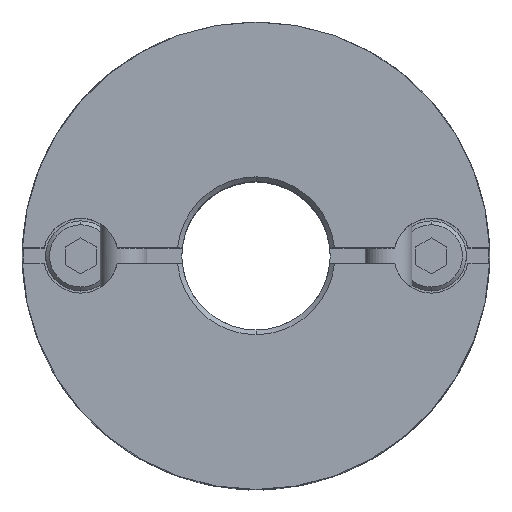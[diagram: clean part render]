
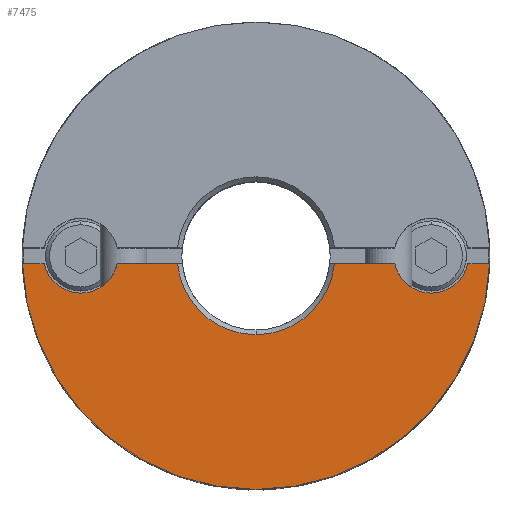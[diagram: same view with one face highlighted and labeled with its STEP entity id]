
A CAD part, top view. The second image highlights one B-rep face of the part: STEP entity #7475.
In plain terms, the highlighted planar face has unit normal (0, 0, 1).
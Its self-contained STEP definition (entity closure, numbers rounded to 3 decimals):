
#622=CARTESIAN_POINT('',(0.,-15.0,11.8));
#623=VERTEX_POINT('',#622);
#630=CARTESIAN_POINT('',(-14.992,-0.5,11.8));
#631=VERTEX_POINT('',#630);
#632=CARTESIAN_POINT('',(0.0,0.0,11.8));
#633=DIRECTION('',(0.0,0.0,-1.0));
#634=DIRECTION('',(0.0,1.0,0.0));
#635=AXIS2_PLACEMENT_3D('',#632,#633,#634);
#636=CIRCLE('',#635,15.0);
#637=EDGE_CURVE('',#623,#631,#636,.T.);
#1032=CARTESIAN_POINT('',(0.,-5.063,11.8));
#1033=VERTEX_POINT('',#1032);
#1041=CARTESIAN_POINT('',(-5.038,-0.5,11.8));
#1042=VERTEX_POINT('',#1041);
#1056=CARTESIAN_POINT('',(0.0,0.0,11.8));
#1057=DIRECTION('',(0.0,0.0,1.0));
#1058=DIRECTION('',(0.0,-1.0,0.0));
#1059=AXIS2_PLACEMENT_3D('',#1056,#1057,#1058);
#1060=CIRCLE('',#1059,5.063);
#1061=EDGE_CURVE('',#1042,#1033,#1060,.T.);
#1353=CARTESIAN_POINT('',(-11.25,-2.4,11.8));
#1354=VERTEX_POINT('',#1353);
#1370=CARTESIAN_POINT('',(-13.597,-0.5,11.8));
#1371=VERTEX_POINT('',#1370);
#1378=CARTESIAN_POINT('',(-11.25,0.,11.8));
#1379=DIRECTION('',(0.0,0.0,-1.0));
#1380=DIRECTION('',(0.0,1.0,0.0));
#1381=AXIS2_PLACEMENT_3D('',#1378,#1379,#1380);
#1382=CIRCLE('',#1381,2.4);
#1383=EDGE_CURVE('',#1354,#1371,#1382,.T.);
#1585=CARTESIAN_POINT('',(11.25,-2.4,11.8));
#1586=VERTEX_POINT('',#1585);
#1652=CARTESIAN_POINT('',(8.903,-0.5,11.8));
#1653=VERTEX_POINT('',#1652);
#1660=CARTESIAN_POINT('',(11.25,0.,11.8));
#1661=DIRECTION('',(0.0,0.0,-1.0));
#1662=DIRECTION('',(0.0,1.0,0.0));
#1663=AXIS2_PLACEMENT_3D('',#1660,#1661,#1662);
#1664=CIRCLE('',#1663,2.4);
#1665=EDGE_CURVE('',#1586,#1653,#1664,.T.);
#5973=CARTESIAN_POINT('',(13.597,-0.5,11.8));
#5974=VERTEX_POINT('',#5973);
#5975=CARTESIAN_POINT('',(11.25,0.,11.8));
#5976=DIRECTION('',(0.0,0.0,-1.0));
#5977=DIRECTION('',(0.0,1.0,0.0));
#5978=AXIS2_PLACEMENT_3D('',#5975,#5976,#5977);
#5979=CIRCLE('',#5978,2.4);
#5980=EDGE_CURVE('',#5974,#1586,#5979,.T.);
#6380=CARTESIAN_POINT('',(-8.903,-0.5,11.8));
#6381=VERTEX_POINT('',#6380);
#6382=CARTESIAN_POINT('',(-11.25,0.,11.8));
#6383=DIRECTION('',(0.0,0.0,-1.0));
#6384=DIRECTION('',(0.0,1.0,0.0));
#6385=AXIS2_PLACEMENT_3D('',#6382,#6383,#6384);
#6386=CIRCLE('',#6385,2.4);
#6387=EDGE_CURVE('',#6381,#1354,#6386,.T.);
#6510=CARTESIAN_POINT('',(-5.038,-0.5,11.8));
#6511=DIRECTION('',(-1.0,0.0,0.0));
#6512=VECTOR('',#6511,3.865);
#6513=LINE('',#6510,#6512);
#6514=EDGE_CURVE('',#1042,#6381,#6513,.T.);
#6627=CARTESIAN_POINT('',(5.038,-0.5,11.8));
#6628=VERTEX_POINT('',#6627);
#6642=CARTESIAN_POINT('',(8.903,-0.5,11.8));
#6643=DIRECTION('',(-1.0,0.0,0.0));
#6644=VECTOR('',#6643,3.865);
#6645=LINE('',#6642,#6644);
#6646=EDGE_CURVE('',#1653,#6628,#6645,.T.);
#7222=CARTESIAN_POINT('',(14.992,-0.5,11.8));
#7223=VERTEX_POINT('',#7222);
#7224=CARTESIAN_POINT('',(14.992,-0.5,11.8));
#7225=DIRECTION('',(-1.0,0.0,0.0));
#7226=VECTOR('',#7225,1.394);
#7227=LINE('',#7224,#7226);
#7228=EDGE_CURVE('',#7223,#5974,#7227,.T.);
#7342=CARTESIAN_POINT('',(-13.597,-0.5,11.8));
#7343=DIRECTION('',(-1.0,0.0,0.0));
#7344=VECTOR('',#7343,1.394);
#7345=LINE('',#7342,#7344);
#7346=EDGE_CURVE('',#1371,#631,#7345,.T.);
#7444=CARTESIAN_POINT('',(0.,1.364,11.8));
#7445=DIRECTION('',(0.0,0.0,1.0));
#7446=DIRECTION('',(0.0,1.0,0.0));
#7447=AXIS2_PLACEMENT_3D('',#7444,#7445,#7446);
#7448=PLANE('',#7447);
#7449=ORIENTED_EDGE('',*,*,#5980,.T.);
#7450=ORIENTED_EDGE('',*,*,#1665,.T.);
#7451=ORIENTED_EDGE('',*,*,#6646,.T.);
#7452=CARTESIAN_POINT('',(0.0,0.0,11.8));
#7453=DIRECTION('',(0.0,0.0,1.0));
#7454=DIRECTION('',(0.0,-1.0,0.0));
#7455=AXIS2_PLACEMENT_3D('',#7452,#7453,#7454);
#7456=CIRCLE('',#7455,5.063);
#7457=EDGE_CURVE('',#1033,#6628,#7456,.T.);
#7458=ORIENTED_EDGE('',*,*,#7457,.F.);
#7459=ORIENTED_EDGE('',*,*,#1061,.F.);
#7460=ORIENTED_EDGE('',*,*,#6514,.T.);
#7461=ORIENTED_EDGE('',*,*,#6387,.T.);
#7462=ORIENTED_EDGE('',*,*,#1383,.T.);
#7463=ORIENTED_EDGE('',*,*,#7346,.T.);
#7464=ORIENTED_EDGE('',*,*,#637,.F.);
#7465=CARTESIAN_POINT('',(0.0,0.0,11.8));
#7466=DIRECTION('',(0.0,0.0,-1.0));
#7467=DIRECTION('',(0.0,1.0,0.0));
#7468=AXIS2_PLACEMENT_3D('',#7465,#7466,#7467);
#7469=CIRCLE('',#7468,15.0);
#7470=EDGE_CURVE('',#7223,#623,#7469,.T.);
#7471=ORIENTED_EDGE('',*,*,#7470,.F.);
#7472=ORIENTED_EDGE('',*,*,#7228,.T.);
#7473=EDGE_LOOP('',(#7449,#7450,#7451,#7458,#7459,#7460,#7461,#7462,#7463,#7464,#7471,#7472));
#7474=FACE_OUTER_BOUND('',#7473,.T.);
#7475=ADVANCED_FACE('',(#7474),#7448,.T.);
